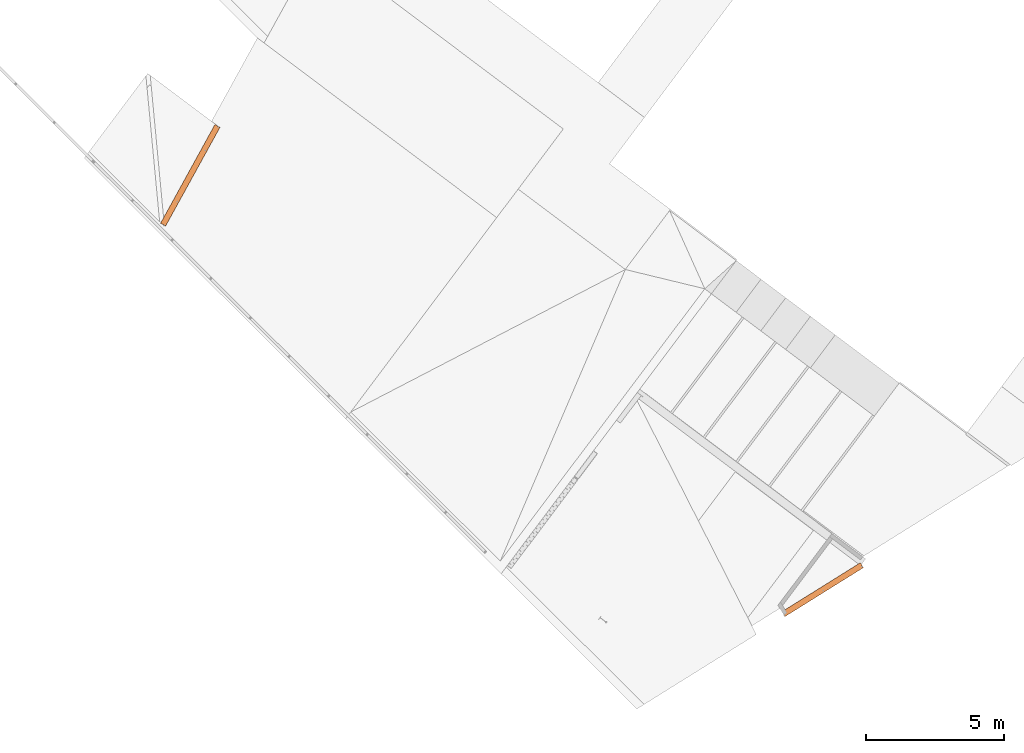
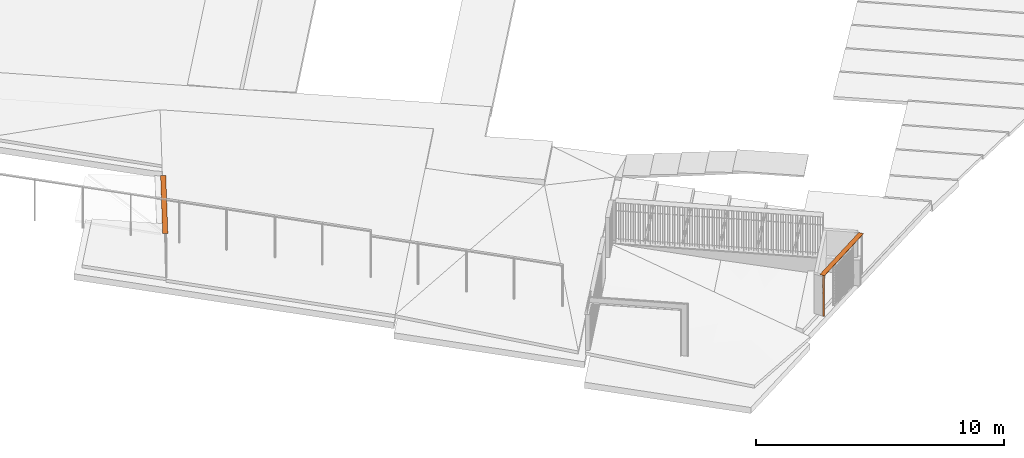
# One storey, part 33 of 33: 2 proxies.
"""IFC2X3 building model written with IfcOpenShell, lengths in metres."""

from ifc_helpers import new_model, entity, si_unit, converted_unit, derived_unit, direction, frame, origin, place, context, subcontext, project, spatial, faceted_brep, source, transform, mapped, material, type_object, type_shapes, element, save


model = new_model("IFC2X3")

# Units and contexts
model_context = context("Model", 3, precision=1e-05, world=origin(), true_north=direction((6.123031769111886e-17, 1.0)))
body_context = subcontext(model_context, "Body", "Model", "MODEL_VIEW")
ifc_project = project(units=[si_unit("LENGTHUNIT", "METRE"), si_unit("AREAUNIT", "SQUARE_METRE"), si_unit("VOLUMEUNIT", "CUBIC_METRE"), converted_unit("PLANEANGLEUNIT", "DEGREE", entity("IfcRatioMeasure", 0.017453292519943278), si_unit("PLANEANGLEUNIT", "RADIAN"), dimensions=[0, 0, 0, 0, 0, 0, 0]), si_unit("MASSUNIT", "GRAM", prefix="KILO"), derived_unit("MASSDENSITYUNIT", [(si_unit("MASSUNIT", "GRAM", prefix="KILO"), 1), (si_unit("LENGTHUNIT", "METRE"), -3)]), derived_unit("IONCONCENTRATIONUNIT", [(si_unit("MASSUNIT", "GRAM", prefix="KILO"), 1), (si_unit("LENGTHUNIT", "METRE"), -3)]), derived_unit("MOMENTOFINERTIAUNIT", [(si_unit("LENGTHUNIT", "METRE"), 4)]), si_unit("TIMEUNIT", "SECOND"), si_unit("FREQUENCYUNIT", "HERTZ"), si_unit("THERMODYNAMICTEMPERATUREUNIT", "DEGREE_CELSIUS"), derived_unit("THERMALTRANSMITTANCEUNIT", [(si_unit("MASSUNIT", "GRAM", prefix="KILO"), 1), (si_unit("THERMODYNAMICTEMPERATUREUNIT", "KELVIN"), -1), (si_unit("TIMEUNIT", "SECOND"), -3)]), derived_unit("THERMALCONDUCTANCEUNIT", [(si_unit("MASSUNIT", "GRAM", prefix="KILO"), 1), (si_unit("THERMODYNAMICTEMPERATUREUNIT", "KELVIN"), -1), (si_unit("TIMEUNIT", "SECOND"), -3), (si_unit("LENGTHUNIT", "METRE"), 1)]), derived_unit("VOLUMETRICFLOWRATEUNIT", [(si_unit("LENGTHUNIT", "METRE"), 3), (si_unit("TIMEUNIT", "SECOND"), -1)]), derived_unit("MASSFLOWRATEUNIT", [(si_unit("MASSUNIT", "GRAM", prefix="KILO"), 1), (si_unit("TIMEUNIT", "SECOND"), -1)]), derived_unit("ROTATIONALFREQUENCYUNIT", [(si_unit("TIMEUNIT", "SECOND"), -1)]), si_unit("ELECTRICCURRENTUNIT", "AMPERE"), si_unit("ELECTRICVOLTAGEUNIT", "VOLT"), si_unit("POWERUNIT", "WATT"), si_unit("FORCEUNIT", "NEWTON", prefix="KILO"), si_unit("ILLUMINANCEUNIT", "LUX"), si_unit("LUMINOUSFLUXUNIT", "LUMEN"), si_unit("LUMINOUSINTENSITYUNIT", "CANDELA"), derived_unit("USERDEFINED", [(si_unit("MASSUNIT", "GRAM", prefix="KILO"), -1), (si_unit("LENGTHUNIT", "METRE"), -2), (si_unit("TIMEUNIT", "SECOND"), 3), (si_unit("LUMINOUSFLUXUNIT", "LUMEN"), 1)]), derived_unit("USERDEFINED", [(si_unit("MASSUNIT", "GRAM", prefix="KILO"), 1), (si_unit("TIMEUNIT", "SECOND"), -3), (si_unit("LENGTHUNIT", "METRE"), 3), (si_unit("ELECTRICCURRENTUNIT", "AMPERE"), -2)]), derived_unit("SOUNDPOWERUNIT", [(si_unit("MASSUNIT", "GRAM", prefix="KILO"), 1), (si_unit("TIMEUNIT", "SECOND"), -3), (si_unit("LENGTHUNIT", "METRE"), 2)]), derived_unit("SOUNDPRESSUREUNIT", [(si_unit("MASSUNIT", "GRAM", prefix="KILO"), 1), (si_unit("LENGTHUNIT", "METRE"), -1), (si_unit("TIMEUNIT", "SECOND"), -2)]), derived_unit("LINEARVELOCITYUNIT", [(si_unit("LENGTHUNIT", "METRE"), 1), (si_unit("TIMEUNIT", "SECOND"), -1)]), si_unit("PRESSUREUNIT", "PASCAL"), derived_unit("USERDEFINED", [(si_unit("MASSUNIT", "GRAM", prefix="KILO"), 1), (si_unit("LENGTHUNIT", "METRE"), -2), (si_unit("TIMEUNIT", "SECOND"), -2)]), derived_unit("LINEARFORCEUNIT", [(si_unit("MASSUNIT", "GRAM", prefix="KILO"), 1), (si_unit("TIMEUNIT", "SECOND"), -2)]), derived_unit("PLANARFORCEUNIT", [(si_unit("MASSUNIT", "GRAM", prefix="KILO"), 1), (si_unit("LENGTHUNIT", "METRE"), -1), (si_unit("TIMEUNIT", "SECOND"), -2)]), derived_unit("SPECIFICHEATCAPACITYUNIT", [(si_unit("THERMODYNAMICTEMPERATUREUNIT", "KELVIN"), -1), (si_unit("LENGTHUNIT", "METRE"), 2), (si_unit("TIMEUNIT", "SECOND"), -2)]), derived_unit("HEATINGVALUEUNIT", [(si_unit("LENGTHUNIT", "METRE"), 2), (si_unit("TIMEUNIT", "SECOND"), -2)]), derived_unit("VAPORPERMEABILITYUNIT", [(si_unit("LENGTHUNIT", "METRE"), -1), (si_unit("TIMEUNIT", "SECOND"), 1)]), derived_unit("DYNAMICVISCOSITYUNIT", [(si_unit("MASSUNIT", "GRAM", prefix="KILO"), 1), (si_unit("TIMEUNIT", "SECOND"), -1), (si_unit("LENGTHUNIT", "METRE"), -1)]), derived_unit("THERMALEXPANSIONCOEFFICIENTUNIT", [(si_unit("THERMODYNAMICTEMPERATUREUNIT", "KELVIN"), -1)]), derived_unit("MODULUSOFELASTICITYUNIT", [(si_unit("MASSUNIT", "GRAM", prefix="KILO"), 1), (si_unit("LENGTHUNIT", "METRE"), -1), (si_unit("TIMEUNIT", "SECOND"), -2)]), derived_unit("ISOTHERMALMOISTURECAPACITYUNIT", [(si_unit("LENGTHUNIT", "METRE"), 3), (si_unit("MASSUNIT", "GRAM", prefix="KILO"), -1)]), derived_unit("MOISTUREDIFFUSIVITYUNIT", [(si_unit("TIMEUNIT", "SECOND"), -1), (si_unit("LENGTHUNIT", "METRE"), 2)])], contexts=[model_context])

# Site, building, storey
site_placement = place(None, origin())
site = spatial("IfcSite", under=ifc_project, at=site_placement, Name="Superficie", CompositionType="ELEMENT")
building_placement = place(site_placement, frame((0.0, 0.0, 235.0), z_axis=(0.0, 0.0, 1.0), x_axis=(-0.7996477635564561, 0.6004693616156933, 0.0)))
building = spatial("IfcBuilding", under=site, at=building_placement, CompositionType="ELEMENT")
storey_placement = place(building_placement, origin())
storey = spatial("IfcBuildingStorey", under=building, at=storey_placement, Name="P0- Escola", CompositionType="ELEMENT", Elevation=0.0)

# Proxies
ifc_material = material(Name="<Unnamed>")
building_element_proxy_type_1 = type_object("IfcBuildingElementProxyType", Name="PerfilVoltant:PerfilVoltant", PredefinedType="NOTDEFINED", material=ifc_material)
shared_shape_1 = source(origin(), body_context, "Body", "Brep", [
    faceted_brep([(4.080000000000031, 0.0, 2.1649999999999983), (4.080000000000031, 0.20999999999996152, 2.1649999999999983), (0.0, 0.20999999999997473, 2.1649999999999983), (0.0, 0.0, 2.1649999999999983), (0.0, 0.0, 2.154999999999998), (0.0, 0.20999999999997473, 2.154999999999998), (4.080000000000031, 0.20999999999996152, 2.154999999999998), (4.080000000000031, 0.07499999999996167, 2.154999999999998), (4.070000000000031, 0.07499999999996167, 2.154999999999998), (4.070000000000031, 0.0, 2.154999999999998), (4.080000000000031, 0.0, 0.0), (4.080000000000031, 0.07499999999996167, 0.0), (4.070000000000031, 0.0, 0.0), (4.070000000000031, 0.07499999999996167, 0.0)], [[[0, 1, 2, 3]], [[4, 5, 6, 7, 8, 9]], [[1, 0, 10, 11, 7, 6]], [[2, 1, 6, 5]], [[3, 2, 5, 4]], [[10, 0, 3, 4, 9, 12]], [[10, 12, 13, 11]], [[11, 13, 8, 7]], [[13, 12, 9, 8]]]),
])
type_shapes(building_element_proxy_type_1, [shared_shape_1])
proxy_1_placement = place(storey_placement, frame((27.4974787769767, -6.585878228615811, -0.22060427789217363), z_axis=(0.0, 0.0, 1.0), x_axis=(0.14040863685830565, -0.9900936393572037, 0.0)))
element("IfcBuildingElementProxy", 1, at=proxy_1_placement, inside=storey, type_object=building_element_proxy_type_1, material=ifc_material, Name="PerfilVoltant:PerfilVoltant", ObjectType="PerfilVoltant:PerfilVoltant", context=body_context, shape_type="MappedRepresentation", body=[
    mapped(shared_shape_1, transform((0.0, 0.0, 0.0), scale=1.0)),
])
building_element_proxy_type_2 = type_object("IfcBuildingElementProxyType", Name="PerfilVoltant:PerfilVoltant", PredefinedType="NOTDEFINED", material=ifc_material)
shared_shape_2 = source(origin(), body_context, "Body", "Brep", [
    faceted_brep([(3.3500000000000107, 0.0, 2.009999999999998), (0.0, 0.0, 2.009999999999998), (0.0, -0.20999999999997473, 2.009999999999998), (3.3500000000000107, -0.20999999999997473, 2.009999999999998), (0.0, 0.0, 2.0), (3.3400000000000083, 0.0, 2.0), (3.3400000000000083, -0.07499999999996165, 2.0), (3.3500000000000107, -0.07499999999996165, 2.0), (3.3500000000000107, -0.20999999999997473, 2.0), (0.0, -0.20999999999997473, 2.0), (3.3500000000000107, -0.07499999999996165, 0.0), (3.3500000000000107, 0.0, 0.0), (3.3400000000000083, 0.0, 0.0), (3.3400000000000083, -0.07499999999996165, 0.0)], [[[0, 1, 2, 3]], [[4, 5, 6, 7, 8, 9]], [[3, 8, 7, 10, 11, 0]], [[2, 9, 8, 3]], [[1, 4, 9, 2]], [[11, 12, 5, 4, 1, 0]], [[11, 10, 13, 12]], [[10, 7, 6, 13]], [[13, 6, 5, 12]]]),
])
type_shapes(building_element_proxy_type_2, [shared_shape_2])
proxy_2_placement = place(storey_placement, frame((-0.13172634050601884, -11.865235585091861, -1.424999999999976), z_axis=(0.0, 0.0, 1.0), x_axis=(0.3606495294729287, 0.9327014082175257, 0.0)))
element("IfcBuildingElementProxy", 2, at=proxy_2_placement, inside=storey, type_object=building_element_proxy_type_2, material=ifc_material, Name="PerfilVoltant:PerfilVoltant", ObjectType="PerfilVoltant:PerfilVoltant", context=body_context, shape_type="MappedRepresentation", body=[
    mapped(shared_shape_2, transform((0.0, 0.0, 0.0), scale=1.0)),
])

save(model, "model.ifc")
